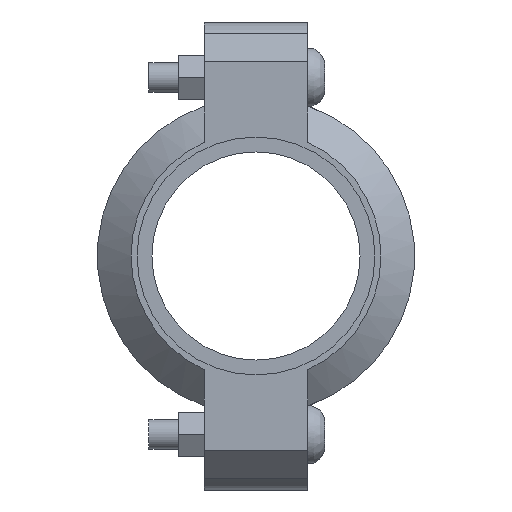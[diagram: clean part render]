
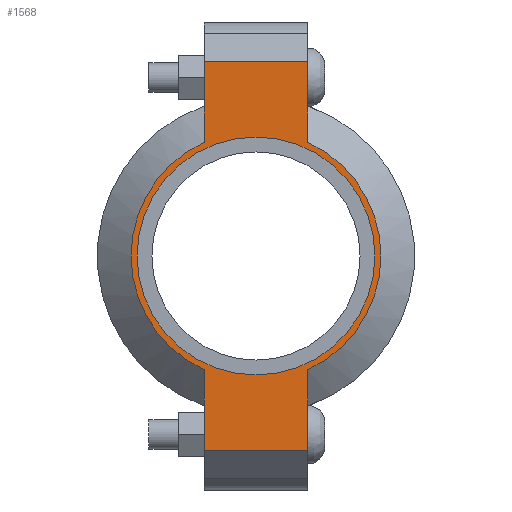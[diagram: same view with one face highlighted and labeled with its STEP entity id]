
A CAD part, left-side view. The second image highlights one B-rep face of the part: STEP entity #1568.
In plain terms, the highlighted planar face has unit normal (-1, 0, 0) as drawn and (0, 0, 1) by its records, which use the part's own axes.
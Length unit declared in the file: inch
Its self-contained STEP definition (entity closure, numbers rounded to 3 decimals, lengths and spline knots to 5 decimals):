
#174=LINE('',#2751,#269);
#187=LINE('',#2795,#282);
#192=LINE('',#2819,#287);
#199=LINE('',#2837,#294);
#206=LINE('',#2862,#301);
#207=LINE('',#2865,#302);
#269=VECTOR('',#2217,0.3937);
#282=VECTOR('',#2246,0.3937);
#287=VECTOR('',#2257,0.3937);
#294=VECTOR('',#2274,0.3937);
#301=VECTOR('',#2295,0.3937);
#302=VECTOR('',#2300,0.3937);
#354=FACE_BOUND('',#532,.T.);
#427=FACE_OUTER_BOUND('',#531,.T.);
#531=EDGE_LOOP('',(#1323,#1324,#1325,#1326,#1327,#1328,#1329,#1330));
#532=EDGE_LOOP('',(#1331));
#601=CIRCLE('',#1785,1.5);
#629=CIRCLE('',#1848,1.575);
#630=CIRCLE('',#1849,1.575);
#693=VERTEX_POINT('',#2539);
#736=VERTEX_POINT('',#2746);
#737=VERTEX_POINT('',#2750);
#753=VERTEX_POINT('',#2792);
#754=VERTEX_POINT('',#2794);
#760=VERTEX_POINT('',#2814);
#761=VERTEX_POINT('',#2818);
#766=VERTEX_POINT('',#2834);
#767=VERTEX_POINT('',#2836);
#851=EDGE_CURVE('',#693,#693,#601,.T.);
#913=EDGE_CURVE('',#737,#736,#174,.T.);
#933=EDGE_CURVE('',#754,#753,#187,.T.);
#942=EDGE_CURVE('',#761,#760,#192,.T.);
#951=EDGE_CURVE('',#767,#766,#199,.T.);
#963=EDGE_CURVE('',#761,#753,#206,.T.);
#964=EDGE_CURVE('',#760,#767,#629,.T.);
#965=EDGE_CURVE('',#737,#766,#207,.T.);
#966=EDGE_CURVE('',#736,#754,#630,.T.);
#1323=ORIENTED_EDGE('',*,*,#963,.F.);
#1324=ORIENTED_EDGE('',*,*,#942,.T.);
#1325=ORIENTED_EDGE('',*,*,#964,.T.);
#1326=ORIENTED_EDGE('',*,*,#951,.T.);
#1327=ORIENTED_EDGE('',*,*,#965,.F.);
#1328=ORIENTED_EDGE('',*,*,#913,.T.);
#1329=ORIENTED_EDGE('',*,*,#966,.T.);
#1330=ORIENTED_EDGE('',*,*,#933,.T.);
#1331=ORIENTED_EDGE('',*,*,#851,.T.);
#1409=PLANE('',#1847);
#1568=ADVANCED_FACE('',(#427,#354),#1409,.T.);
#1785=AXIS2_PLACEMENT_3D('',#2541,#2097,#2098);
#1847=AXIS2_PLACEMENT_3D('',#2863,#2296,#2297);
#1848=AXIS2_PLACEMENT_3D('',#2864,#2298,#2299);
#1849=AXIS2_PLACEMENT_3D('',#2866,#2301,#2302);
#2097=DIRECTION('center_axis',(0.,0.,-1.));
#2098=DIRECTION('ref_axis',(-1.,0.,0.));
#2217=DIRECTION('',(-1.,0.,0.));
#2246=DIRECTION('',(-1.,0.,0.));
#2257=DIRECTION('',(1.,0.,0.));
#2274=DIRECTION('',(1.,0.,0.));
#2295=DIRECTION('',(0.,1.,0.));
#2296=DIRECTION('center_axis',(0.,0.,1.));
#2297=DIRECTION('ref_axis',(1.,0.,0.));
#2298=DIRECTION('center_axis',(0.,0.,1.));
#2299=DIRECTION('ref_axis',(-1.,0.,0.));
#2300=DIRECTION('',(0.,-1.,0.));
#2301=DIRECTION('center_axis',(0.,0.,1.));
#2302=DIRECTION('ref_axis',(-1.,0.,0.));
#2539=CARTESIAN_POINT('',(1.5,0.,0.94));
#2541=CARTESIAN_POINT('Origin',(0.,0.,0.94));
#2746=CARTESIAN_POINT('',(1.43462,0.65,0.94));
#2750=CARTESIAN_POINT('',(2.45,0.65,0.94));
#2751=CARTESIAN_POINT('',(-2.95,0.65,0.94));
#2792=CARTESIAN_POINT('',(-2.45,0.65,0.94));
#2794=CARTESIAN_POINT('',(-1.43462,0.65,0.94));
#2795=CARTESIAN_POINT('',(-2.95,0.65,0.94));
#2814=CARTESIAN_POINT('',(-1.43462,-0.65,0.94));
#2818=CARTESIAN_POINT('',(-2.45,-0.65,0.94));
#2819=CARTESIAN_POINT('',(2.95,-0.65,0.94));
#2834=CARTESIAN_POINT('',(2.45,-0.65,0.94));
#2836=CARTESIAN_POINT('',(1.43462,-0.65,0.94));
#2837=CARTESIAN_POINT('',(2.95,-0.65,0.94));
#2862=CARTESIAN_POINT('',(-2.45,0.325,0.94));
#2863=CARTESIAN_POINT('Origin',(0.,0.,
0.94));
#2864=CARTESIAN_POINT('Origin',(0.,0.,0.94));
#2865=CARTESIAN_POINT('',(2.45,-0.325,0.94));
#2866=CARTESIAN_POINT('Origin',(0.,0.,0.94));
